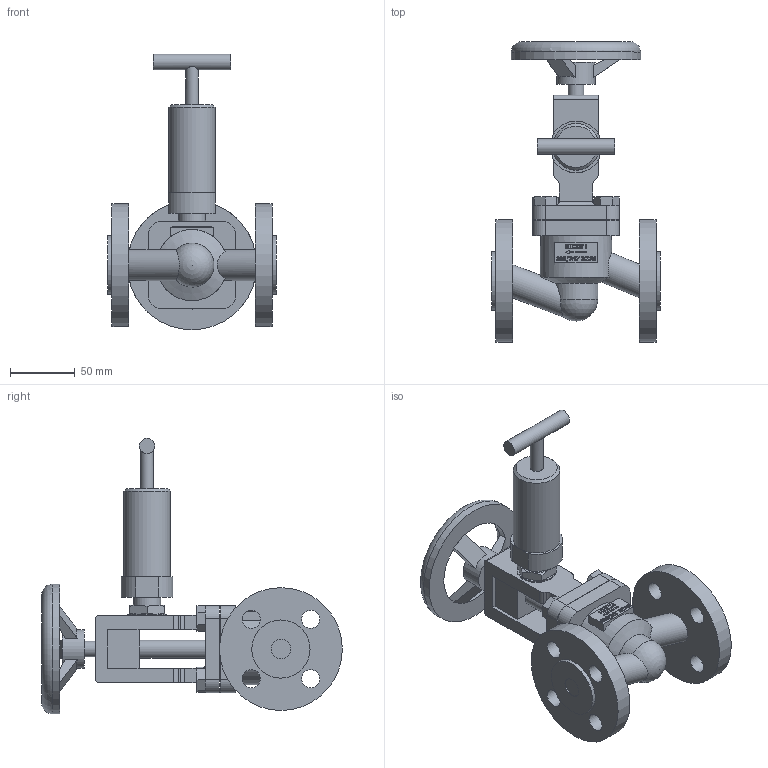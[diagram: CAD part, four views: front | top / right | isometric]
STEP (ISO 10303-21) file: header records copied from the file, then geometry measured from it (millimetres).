
FILE_DESCRIPTION(/* description */ (''),/* implementation_level */ '2;1');
FILE_NAME(/* name */ '100-247HP-DN15-PN16.stp',/* time_stamp */ '2024-07-08T21:34:12+02:00',/* author */ ('roger.thijssen'),/* organization */ (''),/* preprocessor_version */ 'ST-DEVELOPER v20',/* originating_system */ 'Autodesk Inventor 2024',/* authorisation */ '');
FILE_SCHEMA (('AUTOMOTIVE_DESIGN { 1 0 10303 214 3 1 1 }'));
Length unit declared in the file: millimetre
Products named in the file (1): 100-247HP-DN15-PN16
Bounding box: 130 x 232.5 x 213 mm (x, y, z)
Volume: 699215.6 mm3; surface area: 126725.7 mm2
Topology: 1 solids, 1 shells, 393 faces, 1043 edges, 688 vertices
Faces by surface type: plane 244, cylinder 75, bspline 58, cone 14, torus 1, sphere 1
Full cylindrical faces by diameter (mm): 10 x1, 12 x2, 14 x9, 15 x2, 21 x1, 24 x2, 30 x2, 36 x1, 45 x2, 50 x1, 55 x1, 95 x2, 100 x1
Entity records: 13270 total; most frequent: CARTESIAN_POINT 3283, ORIENTED_EDGE 2084, DIRECTION 1742, EDGE_CURVE 1042, LINE 700, VECTOR 700, VERTEX_POINT 688, AXIS2_PLACEMENT_3D 521
